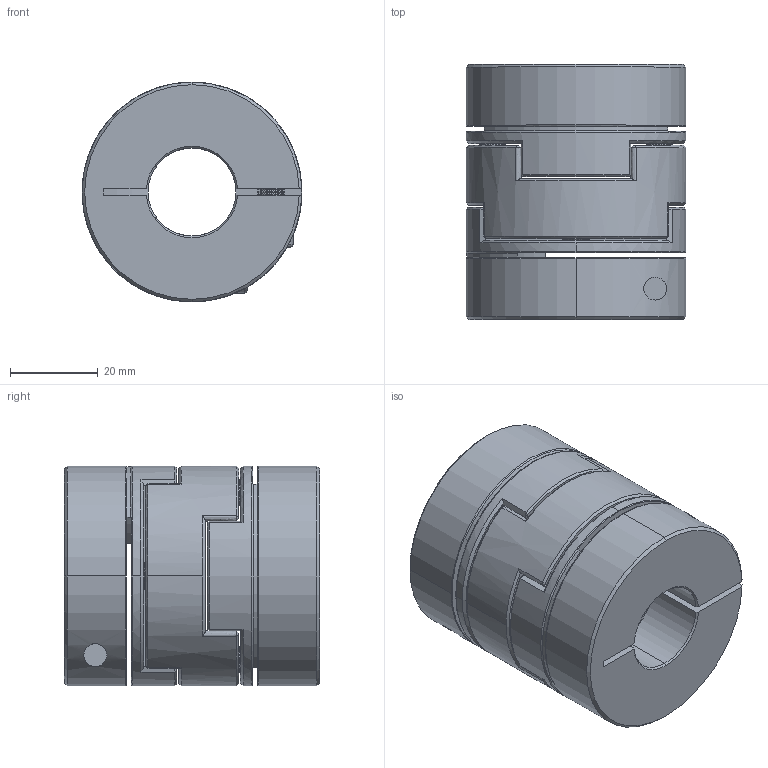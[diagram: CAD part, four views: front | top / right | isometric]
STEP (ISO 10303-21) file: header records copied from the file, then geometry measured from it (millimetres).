
FILE_DESCRIPTION (( 'STEP AP203' ), '1' );
FILE_NAME ('LZ-B-D50L58-20-22.STEP', '2021-10-29T08:16:16', ( '' ), ( '' ), 'SwSTEP 2.0', 'SolidWorks 2018', '' );
FILE_SCHEMA (( 'CONFIG_CONTROL_DESIGN' ));
Length unit declared in the file: millimetre
Products named in the file (1): LZ-B-D50L58-20-22
Bounding box: 50 x 58 x 50 mm (x, y, z)
Volume: 86162.4 mm3; surface area: 29606.1 mm2
Topology: 1 solids, 27 shells, 560 faces, 1364 edges, 810 vertices
Faces by surface type: cone 252, cylinder 160, plane 90, bspline 54, torus 4
Entity records: 17422 total; most frequent: CARTESIAN_POINT 4342, DIRECTION 2782, ORIENTED_EDGE 2720, EDGE_CURVE 1360, AXIS2_PLACEMENT_3D 1123, VERTEX_POINT 810, CIRCLE 616, EDGE_LOOP 594
